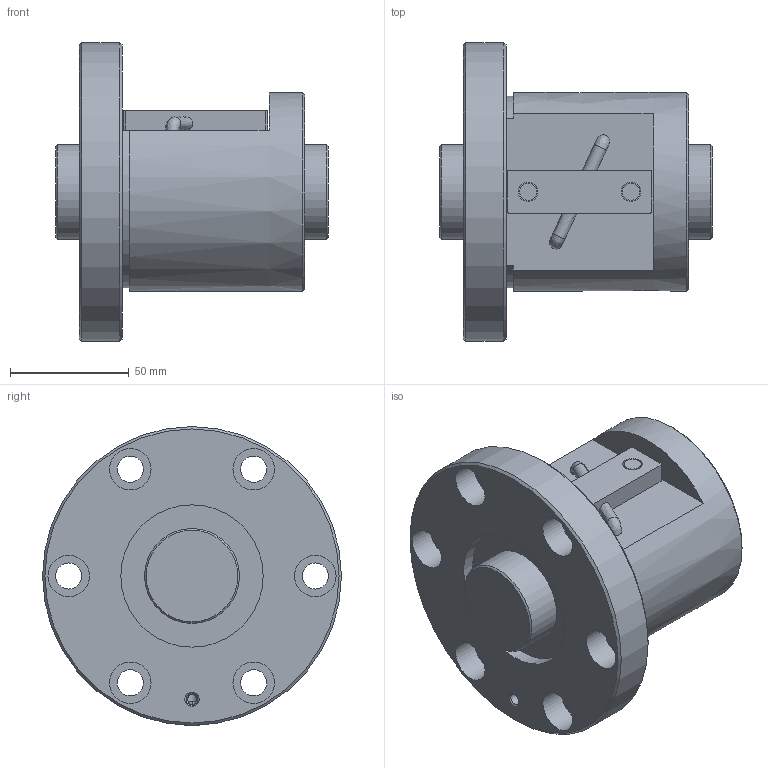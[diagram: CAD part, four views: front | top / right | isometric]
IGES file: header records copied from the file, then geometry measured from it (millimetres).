
Start section: Data from Parasolid IGES Translator 26.0.171, Copyright(c) 2006 Siemens PLM Software. All Rights Reserved.
Global section: file name: BNF4012V-3.5RRG1+115LC0_000_rev.igs; native system: By Siemens PLM Incorporated; preprocessor: XPlus GENERIC/IGES 26.0.171; author: Noname; organization: Noname; date: 20240806.084116; units: millimetre
Bounding box: 115 x 126 x 126 mm (x, y, z)
Surface area: 86843.5 mm2 (no closed solid volume)
Topology: 0 solids, 0 shells, 71 faces, 328 edges, 292 vertices
Faces by surface type: revolution 44, extrusion 27
